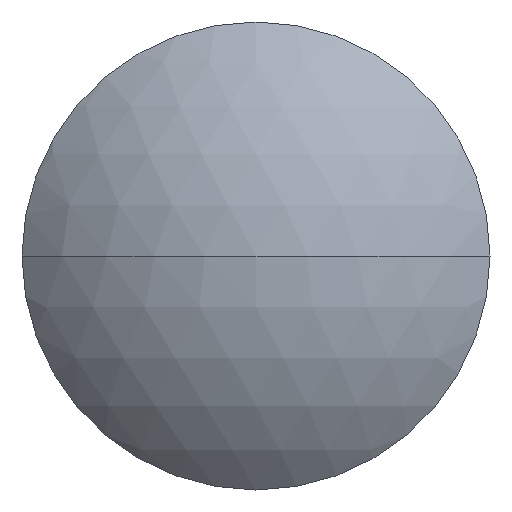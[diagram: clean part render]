
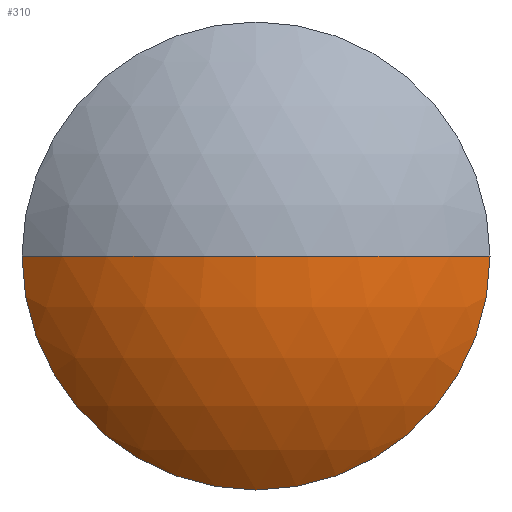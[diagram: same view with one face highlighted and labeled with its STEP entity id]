
A CAD part, left-side view. The second image highlights one B-rep face of the part: STEP entity #310.
In plain terms, the highlighted spherical face has radius 43.876 mm.
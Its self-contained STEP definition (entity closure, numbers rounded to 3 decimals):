
#31 = ORIENTED_EDGE ( 'NONE', *, *, #97, .F. ) ;
#32 = ORIENTED_EDGE ( 'NONE', *, *, #86, .T. ) ;
#35 = DIRECTION ( 'NONE',  ( -1., 0., 0. ) ) ;
#56 = ORIENTED_EDGE ( 'NONE', *, *, #277, .T. ) ;
#66 = CARTESIAN_POINT ( 'NONE',  ( -3., 30.15, 0. ) ) ;
#67 = CARTESIAN_POINT ( 'NONE',  ( -3., 0., 0. ) ) ;
#70 = DIRECTION ( 'NONE',  ( 0., 0., -1. ) ) ;
#75 = DIRECTION ( 'NONE',  ( 0., 1., 0. ) ) ;
#76 = EDGE_LOOP ( 'NONE', ( #79, #32, #56, #31 ) ) ;
#79 = ORIENTED_EDGE ( 'NONE', *, *, #346, .T. ) ;
#86 = EDGE_CURVE ( 'NONE', #276, #103, #184, .T. ) ;
#97 = EDGE_CURVE ( 'NONE', #163, #139, #284, .T. ) ;
#100 = DIRECTION ( 'NONE',  ( 0., 1., 0. ) ) ;
#103 = VERTEX_POINT ( 'NONE', #335 ) ;
#105 = AXIS2_PLACEMENT_3D ( 'NONE', #288, #70, #75 ) ;
#125 = CIRCLE ( 'NONE', #323, 43.876 ) ;
#139 = VERTEX_POINT ( 'NONE', #165 ) ;
#142 = DIRECTION ( 'NONE',  ( 1., 0., 0. ) ) ;
#152 = CARTESIAN_POINT ( 'NONE',  ( 28.876, 0., 0. ) ) ;
#163 = VERTEX_POINT ( 'NONE', #66 ) ;
#165 = CARTESIAN_POINT ( 'NONE',  ( -15., 0., 0. ) ) ;
#168 = DIRECTION ( 'NONE',  ( 0., 0., 1. ) ) ;
#181 = SPHERICAL_SURFACE ( 'NONE', #105, 43.876 ) ;
#184 = CIRCLE ( 'NONE', #255, 30.15 ) ;
#190 = AXIS2_PLACEMENT_3D ( 'NONE', #254, #337, #142 ) ;
#196 = AXIS2_PLACEMENT_3D ( 'NONE', #289, #204, #344 ) ;
#204 = DIRECTION ( 'NONE',  ( -1., 0., 0. ) ) ;
#234 = CARTESIAN_POINT ( 'NONE',  ( -3., 0., -30.15 ) ) ;
#243 = CIRCLE ( 'NONE', #196, 30.15 ) ;
#254 = CARTESIAN_POINT ( 'NONE',  ( 28.876, 0., 0. ) ) ;
#255 = AXIS2_PLACEMENT_3D ( 'NONE', #67, #35, #168 ) ;
#276 = VERTEX_POINT ( 'NONE', #234 ) ;
#277 = EDGE_CURVE ( 'NONE', #103, #139, #125, .T. ) ;
#284 = CIRCLE ( 'NONE', #190, 43.876 ) ;
#288 = CARTESIAN_POINT ( 'NONE',  ( 28.876, 0., 0. ) ) ;
#289 = CARTESIAN_POINT ( 'NONE',  ( -3., 0., 0. ) ) ;
#310 = ADVANCED_FACE ( 'NONE', ( #321 ), #181, .T. ) ;
#321 = FACE_OUTER_BOUND ( 'NONE', #76, .T. ) ;
#323 = AXIS2_PLACEMENT_3D ( 'NONE', #152, #343, #100 ) ;
#335 = CARTESIAN_POINT ( 'NONE',  ( -3., -30.15, 0. ) ) ;
#337 = DIRECTION ( 'NONE',  ( 0., 0., 1. ) ) ;
#343 = DIRECTION ( 'NONE',  ( 0., 0., -1. ) ) ;
#344 = DIRECTION ( 'NONE',  ( 0., 0., 1. ) ) ;
#346 = EDGE_CURVE ( 'NONE', #163, #276, #243, .T. ) ;
